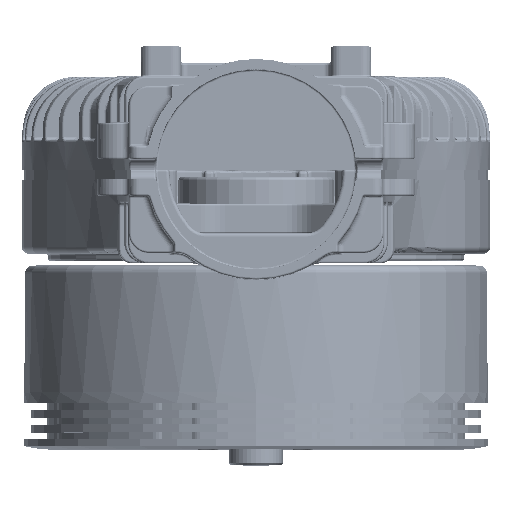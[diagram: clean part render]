
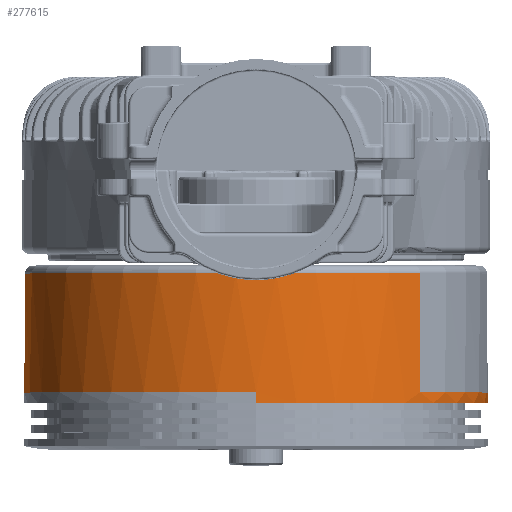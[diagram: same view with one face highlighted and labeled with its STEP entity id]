
A CAD part, top view. The second image highlights one B-rep face of the part: STEP entity #277615.
In plain terms, the highlighted cylindrical face has radius 34.7 mm (diameter 69.4 mm), a partial arc.
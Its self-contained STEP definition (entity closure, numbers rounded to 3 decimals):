
#272385=CARTESIAN_POINT('',(0.,-34.85,0.));
#272386=DIRECTION('',(0.,-1.,0.));
#272387=DIRECTION('',(0.,0.,-1.));
#272388=AXIS2_PLACEMENT_3D('',#272385,#272386,#272387);
#272550=DIRECTION('',(0.,-1.,0.));
#272551=VECTOR('',#272550,1.6);
#272552=CARTESIAN_POINT('',(0.,-33.25,34.7));
#272553=LINE('',#272552,#272551);
#272554=CARTESIAN_POINT('',(0.,-33.25,0.));
#272555=DIRECTION('',(0.,-1.,0.));
#272556=DIRECTION('',(0.,0.,1.));
#272557=AXIS2_PLACEMENT_3D('',#272554,#272555,#272556);
#272559=DIRECTION('',(0.,1.,0.));
#272560=VECTOR('',#272559,17.8);
#272561=CARTESIAN_POINT('',(-24.537,-33.25,-24.537));
#272562=LINE('',#272561,#272560);
#272563=DIRECTION('',(0.,-1.,0.));
#272564=VECTOR('',#272563,17.8);
#272565=CARTESIAN_POINT('',(24.537,-15.45,24.537));
#272566=LINE('',#272565,#272564);
#272567=DIRECTION('',(0.,-1.,0.));
#272568=VECTOR('',#272567,1.6);
#272569=CARTESIAN_POINT('',(0.,-33.25,-34.7));
#272570=LINE('',#272569,#272568);
#272571=CARTESIAN_POINT('',(0.,-33.25,0.));
#272572=DIRECTION('',(0.,-1.,0.));
#272573=DIRECTION('',(0.,0.,-1.));
#272574=AXIS2_PLACEMENT_3D('',#272571,#272572,#272573);
#272586=CARTESIAN_POINT('',(0.,-15.45,0.));
#272587=DIRECTION('',(0.,1.,0.));
#272588=DIRECTION('',(-0.707,0.,-0.707));
#272589=AXIS2_PLACEMENT_3D('',#272586,#272587,#272588);
#274572=CARTESIAN_POINT('',(0.,-34.85,34.7));
#274573=CARTESIAN_POINT('',(0.,-34.85,-34.7));
#274574=VERTEX_POINT('',#274572);
#274575=VERTEX_POINT('',#274573);
#275446=CARTESIAN_POINT('',(24.537,-15.45,24.537));
#275447=CARTESIAN_POINT('',(-24.537,-15.45,-24.537));
#275448=VERTEX_POINT('',#275446);
#275449=VERTEX_POINT('',#275447);
#275458=CARTESIAN_POINT('',(0.,-33.25,-34.7));
#275459=CARTESIAN_POINT('',(24.537,-33.25,24.537));
#275460=VERTEX_POINT('',#275458);
#275461=VERTEX_POINT('',#275459);
#275462=CARTESIAN_POINT('',(0.,-33.25,34.7));
#275463=CARTESIAN_POINT('',(-24.537,-33.25,-24.537));
#275464=VERTEX_POINT('',#275462);
#275465=VERTEX_POINT('',#275463);
#277593=CARTESIAN_POINT('',(0.,-8.757,0.));
#277594=DIRECTION('',(0.,1.,0.));
#277595=DIRECTION('',(0.,0.,-1.));
#277596=AXIS2_PLACEMENT_3D('',#277593,#277594,#277595);
#277597=CYLINDRICAL_SURFACE('',#277596,34.7);
#277599=ORIENTED_EDGE('',*,*,#277598,.F.);
#277601=ORIENTED_EDGE('',*,*,#277600,.T.);
#277603=ORIENTED_EDGE('',*,*,#277602,.T.);
#277605=ORIENTED_EDGE('',*,*,#277604,.T.);
#277607=ORIENTED_EDGE('',*,*,#277606,.T.);
#277609=ORIENTED_EDGE('',*,*,#277608,.F.);
#277611=ORIENTED_EDGE('',*,*,#277610,.T.);
#277612=ORIENTED_EDGE('',*,*,#277546,.T.);
#277613=EDGE_LOOP('',(#277599,#277601,#277603,#277605,#277607,#277609,#277611,
#277612));
#277614=FACE_OUTER_BOUND('',#277613,.F.);
#272389=CIRCLE('',#272388,34.7);
#272558=CIRCLE('',#272557,34.7);
#272575=CIRCLE('',#272574,34.7);
#272590=CIRCLE('',#272589,34.7);
#277546=EDGE_CURVE('',#274575,#274574,#272389,.T.);
#277598=EDGE_CURVE('',#275464,#274574,#272553,.T.);
#277600=EDGE_CURVE('',#275464,#275465,#272558,.T.);
#277602=EDGE_CURVE('',#275465,#275449,#272562,.T.);
#277604=EDGE_CURVE('',#275449,#275448,#272590,.T.);
#277606=EDGE_CURVE('',#275448,#275461,#272566,.T.);
#277608=EDGE_CURVE('',#275460,#275461,#272575,.T.);
#277610=EDGE_CURVE('',#275460,#274575,#272570,.T.);
#277615=ADVANCED_FACE('',(#277614),#277597,.T.);
